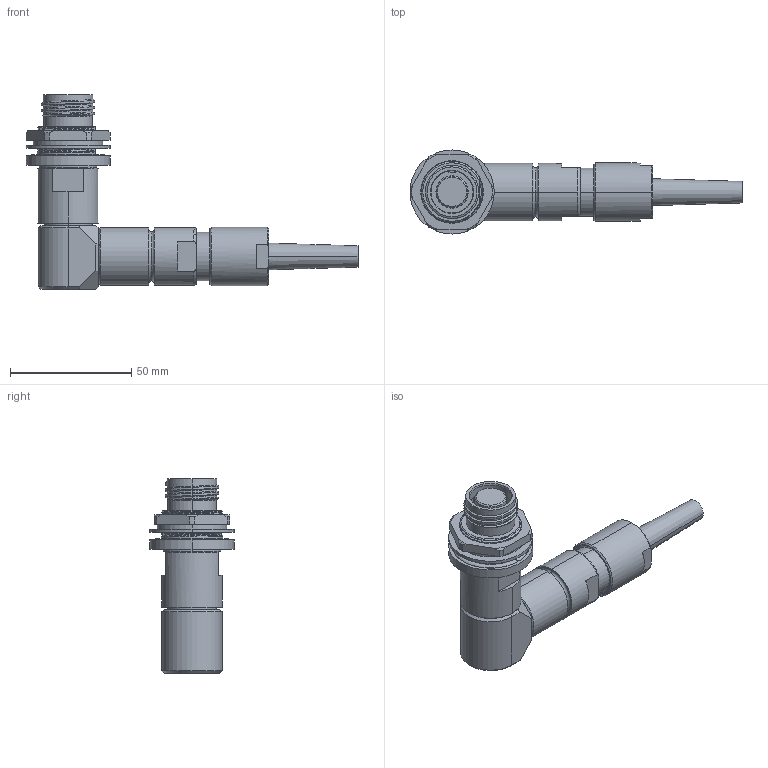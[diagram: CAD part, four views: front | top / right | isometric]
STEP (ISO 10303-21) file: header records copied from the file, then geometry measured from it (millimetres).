
FILE_DESCRIPTION (( 'STEP AP214' ), '1' );
FILE_NAME ('QLINK90-RJTX-13XX-SXXX.STEP', '2025-10-22T15:29:37', ( '' ), ( '' ), 'SwSTEP 2.0', 'SolidWorks 2024', '' );
FILE_SCHEMA (( 'AUTOMOTIVE_DESIGN' ));
Length unit declared in the file: millimetre
Products named in the file (1): QLINK90-RJTX-13XX-SXXX
Bounding box: 136.85 x 34.67 x 80.31 mm (x, y, z)
Volume: 72041 mm3; surface area: 22543.9 mm2
Topology: 2 solids, 2 shells, 284 faces, 731 edges, 472 vertices
Faces by surface type: cylinder 87, plane 71, cone 60, bspline 45, torus 21
Entity records: 24171 total; most frequent: CARTESIAN_POINT 17771, ORIENTED_EDGE 1462, DIRECTION 1210, EDGE_CURVE 731, AXIS2_PLACEMENT_3D 484, VERTEX_POINT 472, EDGE_LOOP 315, FACE_OUTER_BOUND 284
